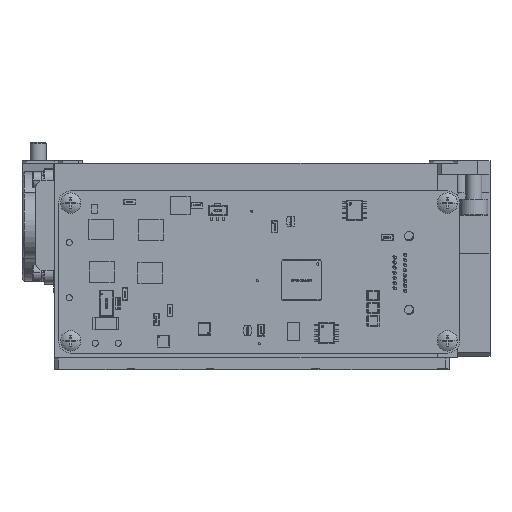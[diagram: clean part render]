
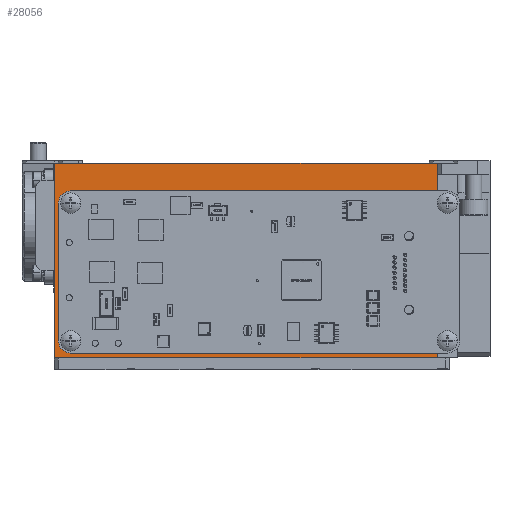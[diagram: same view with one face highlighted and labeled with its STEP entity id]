
A CAD part, front view. The second image highlights one B-rep face of the part: STEP entity #28056.
In plain terms, the highlighted planar face has unit normal (0, -1, 0).
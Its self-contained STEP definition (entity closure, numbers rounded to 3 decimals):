
#1076=DIRECTION('',(0.078,0.,-0.997));
#1077=VECTOR('',#1076,0.472);
#1078=CARTESIAN_POINT('',(-77.709,-24.7,-4.25));
#1079=LINE('',#1078,#1077);
#1080=DIRECTION('',(0.233,0.,-0.972));
#1081=VECTOR('',#1080,0.472);
#1082=CARTESIAN_POINT('',(-77.672,-24.7,-4.721));
#1083=LINE('',#1082,#1081);
#1084=DIRECTION('',(0.383,0.,-0.924));
#1085=VECTOR('',#1084,0.472);
#1086=CARTESIAN_POINT('',(-77.562,-24.7,-5.18));
#1087=LINE('',#1086,#1085);
#1088=DIRECTION('',(0.523,0.,-0.853));
#1089=VECTOR('',#1088,0.472);
#1090=CARTESIAN_POINT('',(-77.381,-24.7,-5.616));
#1091=LINE('',#1090,#1089);
#1092=DIRECTION('',(0.649,0.,-0.76));
#1093=VECTOR('',#1092,0.472);
#1094=CARTESIAN_POINT('',(-77.135,-24.7,-6.019));
#1095=LINE('',#1094,#1093);
#1096=DIRECTION('',(0.76,0.,-0.649));
#1097=VECTOR('',#1096,0.472);
#1098=CARTESIAN_POINT('',(-76.828,-24.7,-6.378));
#1099=LINE('',#1098,#1097);
#1100=DIRECTION('',(0.853,0.,-0.523));
#1101=VECTOR('',#1100,0.472);
#1102=CARTESIAN_POINT('',(-76.469,-24.7,-6.685));
#1103=LINE('',#1102,#1101);
#1104=DIRECTION('',(0.924,0.,-0.383));
#1105=VECTOR('',#1104,0.472);
#1106=CARTESIAN_POINT('',(-76.066,-24.7,-6.931));
#1107=LINE('',#1106,#1105);
#1108=DIRECTION('',(0.972,0.,-0.233));
#1109=VECTOR('',#1108,0.472);
#1110=CARTESIAN_POINT('',(-75.63,-24.7,-7.112));
#1111=LINE('',#1110,#1109);
#1112=CARTESIAN_POINT('',(-75.171,-24.7,-7.222));
#1113=CARTESIAN_POINT('',(-75.014,-24.7,-7.235));
#1114=CARTESIAN_POINT('',(-74.857,-24.7,-7.242));
#1115=CARTESIAN_POINT('',(-74.7,-24.7,-7.255));
#1117=DIRECTION('',(-1.,0.,0.));
#1118=VECTOR('',#1117,90.5);
#1119=CARTESIAN_POINT('',(15.8,-24.7,-7.259));
#1120=LINE('',#1119,#1118);
#1121=DIRECTION('',(0.,0.,1.));
#1122=VECTOR('',#1121,1.191);
#1123=CARTESIAN_POINT('',(15.8,-24.7,-8.45));
#1124=LINE('',#1123,#1122);
#1125=DIRECTION('',(1.,0.,0.));
#1126=VECTOR('',#1125,94.5);
#1127=CARTESIAN_POINT('',(-78.7,-24.7,-8.45));
#1128=LINE('',#1127,#1126);
#1129=DIRECTION('',(0.,0.,-1.));
#1130=VECTOR('',#1129,48.);
#1131=CARTESIAN_POINT('',(-78.7,-24.7,39.55));
#1132=LINE('',#1131,#1130);
#1133=DIRECTION('',(-1.,0.,0.));
#1134=VECTOR('',#1133,94.5);
#1135=CARTESIAN_POINT('',(15.8,-24.7,39.55));
#1136=LINE('',#1135,#1134);
#1137=DIRECTION('',(0.,0.,1.));
#1138=VECTOR('',#1137,6.8);
#1139=CARTESIAN_POINT('',(15.8,-24.7,32.75));
#1140=LINE('',#1139,#1138);
#1141=DIRECTION('',(-1.,0.,0.));
#1142=VECTOR('',#1141,90.5);
#1143=CARTESIAN_POINT('',(15.8,-24.7,32.75));
#1144=LINE('',#1143,#1142);
#1145=DIRECTION('',(-0.997,0.,-0.078));
#1146=VECTOR('',#1145,0.472);
#1147=CARTESIAN_POINT('',(-74.7,-24.7,32.759));
#1148=LINE('',#1147,#1146);
#1149=DIRECTION('',(-0.972,0.,-0.233));
#1150=VECTOR('',#1149,0.472);
#1151=CARTESIAN_POINT('',(-75.171,-24.7,32.722));
#1152=LINE('',#1151,#1150);
#1153=DIRECTION('',(-0.924,0.,-0.383));
#1154=VECTOR('',#1153,0.472);
#1155=CARTESIAN_POINT('',(-75.63,-24.7,32.612));
#1156=LINE('',#1155,#1154);
#1157=DIRECTION('',(-0.853,0.,-0.523));
#1158=VECTOR('',#1157,0.472);
#1159=CARTESIAN_POINT('',(-76.066,-24.7,32.431));
#1160=LINE('',#1159,#1158);
#1161=DIRECTION('',(-0.76,0.,-0.649));
#1162=VECTOR('',#1161,0.472);
#1163=CARTESIAN_POINT('',(-76.469,-24.7,32.185));
#1164=LINE('',#1163,#1162);
#1165=DIRECTION('',(-0.649,0.,-0.76));
#1166=VECTOR('',#1165,0.472);
#1167=CARTESIAN_POINT('',(-76.828,-24.7,31.878));
#1168=LINE('',#1167,#1166);
#1169=DIRECTION('',(-0.523,0.,-0.853));
#1170=VECTOR('',#1169,0.472);
#1171=CARTESIAN_POINT('',(-77.135,-24.7,31.519));
#1172=LINE('',#1171,#1170);
#1173=DIRECTION('',(-0.383,0.,-0.924));
#1174=VECTOR('',#1173,0.472);
#1175=CARTESIAN_POINT('',(-77.381,-24.7,31.116));
#1176=LINE('',#1175,#1174);
#1177=DIRECTION('',(-0.233,0.,-0.972));
#1178=VECTOR('',#1177,0.472);
#1179=CARTESIAN_POINT('',(-77.562,-24.7,30.68));
#1180=LINE('',#1179,#1178);
#1181=CARTESIAN_POINT('',(-77.672,-24.7,30.221));
#1182=CARTESIAN_POINT('',(-77.685,-24.7,30.064));
#1183=CARTESIAN_POINT('',(-77.692,-24.7,29.907));
#1184=CARTESIAN_POINT('',(-77.705,-24.7,29.75));
#1186=DIRECTION('',(0.,0.,-1.));
#1187=VECTOR('',#1186,34.);
#1188=CARTESIAN_POINT('',(-77.705,-24.7,29.75));
#1189=LINE('',#1188,#1187);
#22597=CARTESIAN_POINT('',(-78.7,-24.7,-8.45));
#22598=CARTESIAN_POINT('',(15.8,-24.7,-8.45));
#22599=VERTEX_POINT('',#22597);
#22600=VERTEX_POINT('',#22598);
#22601=CARTESIAN_POINT('',(15.8,-24.7,39.55));
#22602=CARTESIAN_POINT('',(-78.7,-24.7,39.55));
#22603=VERTEX_POINT('',#22601);
#22604=VERTEX_POINT('',#22602);
#26550=CARTESIAN_POINT('',(-77.709,-24.7,-4.25));
#26551=CARTESIAN_POINT('',(-77.672,-24.7,-4.721));
#26552=VERTEX_POINT('',#26550);
#26553=VERTEX_POINT('',#26551);
#26554=CARTESIAN_POINT('',(-77.562,-24.7,-5.18));
#26555=VERTEX_POINT('',#26554);
#26556=CARTESIAN_POINT('',(-77.381,-24.7,-5.616));
#26557=VERTEX_POINT('',#26556);
#26558=CARTESIAN_POINT('',(-77.135,-24.7,-6.019));
#26559=VERTEX_POINT('',#26558);
#26560=CARTESIAN_POINT('',(-76.828,-24.7,-6.378));
#26561=VERTEX_POINT('',#26560);
#26562=CARTESIAN_POINT('',(-76.469,-24.7,-6.685));
#26563=VERTEX_POINT('',#26562);
#26564=CARTESIAN_POINT('',(-76.066,-24.7,-6.931));
#26565=VERTEX_POINT('',#26564);
#26566=CARTESIAN_POINT('',(-75.63,-24.7,-7.112));
#26567=VERTEX_POINT('',#26566);
#26568=CARTESIAN_POINT('',(-75.171,-24.7,-7.222));
#26569=VERTEX_POINT('',#26568);
#26570=VERTEX_POINT('',#1115);
#26571=CARTESIAN_POINT('',(15.8,-24.7,-7.259));
#26572=VERTEX_POINT('',#26571);
#26573=CARTESIAN_POINT('',(15.8,-24.7,32.75));
#26574=CARTESIAN_POINT('',(-74.7,-24.7,32.759));
#26575=VERTEX_POINT('',#26573);
#26576=VERTEX_POINT('',#26574);
#26577=CARTESIAN_POINT('',(-75.171,-24.7,32.722));
#26578=VERTEX_POINT('',#26577);
#26579=CARTESIAN_POINT('',(-75.63,-24.7,32.612));
#26580=VERTEX_POINT('',#26579);
#26581=CARTESIAN_POINT('',(-76.066,-24.7,32.431));
#26582=VERTEX_POINT('',#26581);
#26583=CARTESIAN_POINT('',(-76.469,-24.7,32.185));
#26584=VERTEX_POINT('',#26583);
#26585=CARTESIAN_POINT('',(-76.828,-24.7,31.878));
#26586=VERTEX_POINT('',#26585);
#26587=CARTESIAN_POINT('',(-77.135,-24.7,31.519));
#26588=VERTEX_POINT('',#26587);
#26589=CARTESIAN_POINT('',(-77.381,-24.7,31.116));
#26590=VERTEX_POINT('',#26589);
#26591=CARTESIAN_POINT('',(-77.562,-24.7,30.68));
#26592=VERTEX_POINT('',#26591);
#26593=CARTESIAN_POINT('',(-77.672,-24.7,30.221));
#26594=VERTEX_POINT('',#26593);
#26595=VERTEX_POINT('',#1184);
#27994=CARTESIAN_POINT('',(-77.709,-24.7,-4.25));
#27995=DIRECTION('',(0.,1.,0.));
#27996=DIRECTION('',(-1.,0.,0.));
#27997=AXIS2_PLACEMENT_3D('',#27994,#27995,#27996);
#27998=PLANE('',#27997);
#27999=ORIENTED_EDGE('',*,*,#27977,.T.);
#28001=ORIENTED_EDGE('',*,*,#28000,.T.);
#28003=ORIENTED_EDGE('',*,*,#28002,.T.);
#28005=ORIENTED_EDGE('',*,*,#28004,.T.);
#28007=ORIENTED_EDGE('',*,*,#28006,.T.);
#28009=ORIENTED_EDGE('',*,*,#28008,.T.);
#28011=ORIENTED_EDGE('',*,*,#28010,.T.);
#28013=ORIENTED_EDGE('',*,*,#28012,.T.);
#28015=ORIENTED_EDGE('',*,*,#28014,.T.);
#28017=ORIENTED_EDGE('',*,*,#28016,.T.);
#28019=ORIENTED_EDGE('',*,*,#28018,.F.);
#28021=ORIENTED_EDGE('',*,*,#28020,.F.);
#28023=ORIENTED_EDGE('',*,*,#28022,.F.);
#28025=ORIENTED_EDGE('',*,*,#28024,.F.);
#28027=ORIENTED_EDGE('',*,*,#28026,.F.);
#28029=ORIENTED_EDGE('',*,*,#28028,.F.);
#28031=ORIENTED_EDGE('',*,*,#28030,.T.);
#28033=ORIENTED_EDGE('',*,*,#28032,.T.);
#28035=ORIENTED_EDGE('',*,*,#28034,.T.);
#28037=ORIENTED_EDGE('',*,*,#28036,.T.);
#28039=ORIENTED_EDGE('',*,*,#28038,.T.);
#28041=ORIENTED_EDGE('',*,*,#28040,.T.);
#28043=ORIENTED_EDGE('',*,*,#28042,.T.);
#28045=ORIENTED_EDGE('',*,*,#28044,.T.);
#28047=ORIENTED_EDGE('',*,*,#28046,.T.);
#28049=ORIENTED_EDGE('',*,*,#28048,.T.);
#28051=ORIENTED_EDGE('',*,*,#28050,.T.);
#28053=ORIENTED_EDGE('',*,*,#28052,.T.);
#28054=EDGE_LOOP('',(#27999,#28001,#28003,#28005,#28007,#28009,#28011,#28013,
#28015,#28017,#28019,#28021,#28023,#28025,#28027,#28029,#28031,#28033,#28035,
#28037,#28039,#28041,#28043,#28045,#28047,#28049,#28051,#28053));
#28055=FACE_OUTER_BOUND('',#28054,.F.);
#28056=ADVANCED_FACE('',(#28055),#27998,.F.);
#1116=B_SPLINE_CURVE_WITH_KNOTS('',3,(#1112,#1113,#1114,#1115),.UNSPECIFIED.,
.F.,.F.,(4,4),(0.,1.),.UNSPECIFIED.);
#1185=B_SPLINE_CURVE_WITH_KNOTS('',3,(#1181,#1182,#1183,#1184),.UNSPECIFIED.,
.F.,.F.,(4,4),(0.,1.),.UNSPECIFIED.);
#27977=EDGE_CURVE('',#26552,#26553,#1079,.T.);
#28000=EDGE_CURVE('',#26553,#26555,#1083,.T.);
#28002=EDGE_CURVE('',#26555,#26557,#1087,.T.);
#28004=EDGE_CURVE('',#26557,#26559,#1091,.T.);
#28006=EDGE_CURVE('',#26559,#26561,#1095,.T.);
#28008=EDGE_CURVE('',#26561,#26563,#1099,.T.);
#28010=EDGE_CURVE('',#26563,#26565,#1103,.T.);
#28012=EDGE_CURVE('',#26565,#26567,#1107,.T.);
#28014=EDGE_CURVE('',#26567,#26569,#1111,.T.);
#28016=EDGE_CURVE('',#26569,#26570,#1116,.T.);
#28018=EDGE_CURVE('',#26572,#26570,#1120,.T.);
#28020=EDGE_CURVE('',#22600,#26572,#1124,.T.);
#28022=EDGE_CURVE('',#22599,#22600,#1128,.T.);
#28024=EDGE_CURVE('',#22604,#22599,#1132,.T.);
#28026=EDGE_CURVE('',#22603,#22604,#1136,.T.);
#28028=EDGE_CURVE('',#26575,#22603,#1140,.T.);
#28030=EDGE_CURVE('',#26575,#26576,#1144,.T.);
#28032=EDGE_CURVE('',#26576,#26578,#1148,.T.);
#28034=EDGE_CURVE('',#26578,#26580,#1152,.T.);
#28036=EDGE_CURVE('',#26580,#26582,#1156,.T.);
#28038=EDGE_CURVE('',#26582,#26584,#1160,.T.);
#28040=EDGE_CURVE('',#26584,#26586,#1164,.T.);
#28042=EDGE_CURVE('',#26586,#26588,#1168,.T.);
#28044=EDGE_CURVE('',#26588,#26590,#1172,.T.);
#28046=EDGE_CURVE('',#26590,#26592,#1176,.T.);
#28048=EDGE_CURVE('',#26592,#26594,#1180,.T.);
#28050=EDGE_CURVE('',#26594,#26595,#1185,.T.);
#28052=EDGE_CURVE('',#26595,#26552,#1189,.T.);
